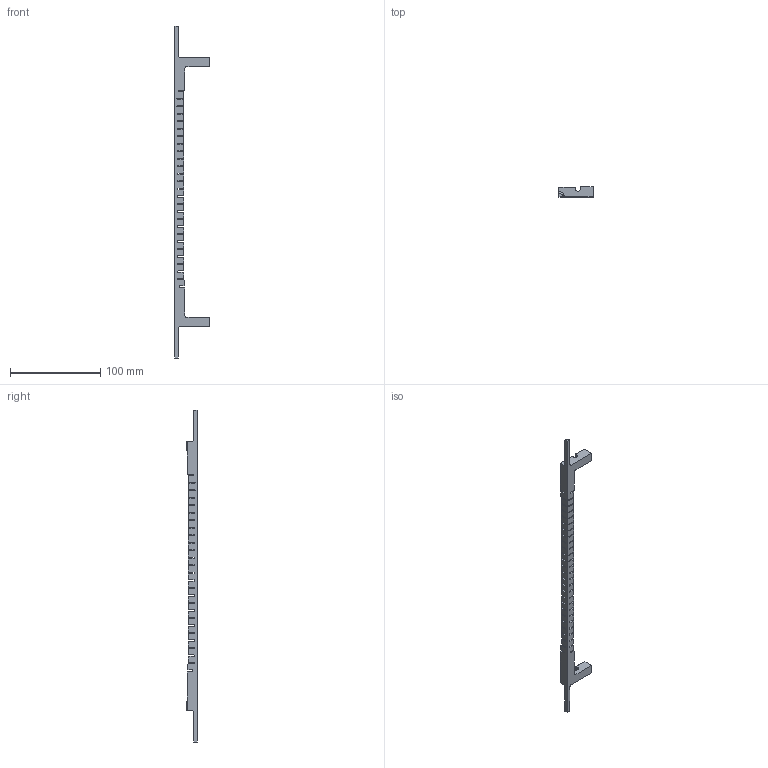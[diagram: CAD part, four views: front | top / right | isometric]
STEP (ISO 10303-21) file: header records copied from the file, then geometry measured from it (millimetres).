
FILE_DESCRIPTION(('CATIA V5R16 STEP'),'2;1');
FILE_NAME('C:\Documents and Settings\samosh\Desktop\Quart_12WNSDVG1.8.stp','2009-02-04T16:11:05+00:00',('none'),('CERN'),'CATIA Version 5 Release 16 (IN-10)','CATIA V5 STEP AP214','none');
FILE_SCHEMA(('AUTOMOTIVE_DESIGN { 1 0 10303 214 1 1 1 1 }'));
Length unit declared in the file: millimetre
Products named in the file (1): ST0106949_01
Bounding box: 38 x 11.43 x 367.95 mm (x, y, z)
Volume: 28814.8 mm3; surface area: 17233.7 mm2
Topology: 1 solids, 1 shells, 241 faces, 699 edges, 458 vertices
Faces by surface type: cylinder 74, plane 72, revolution 54, torus 39, bspline 2
Entity records: 9135 total; most frequent: CARTESIAN_POINT 3135, ORIENTED_EDGE 1394, DIRECTION 946, EDGE_CURVE 697, VERTEX_POINT 458, AXIS2_PLACEMENT_3D 427, VECTOR 283, LINE 283
